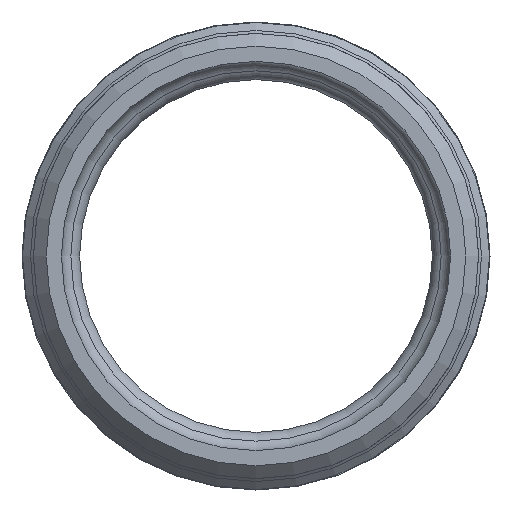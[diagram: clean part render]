
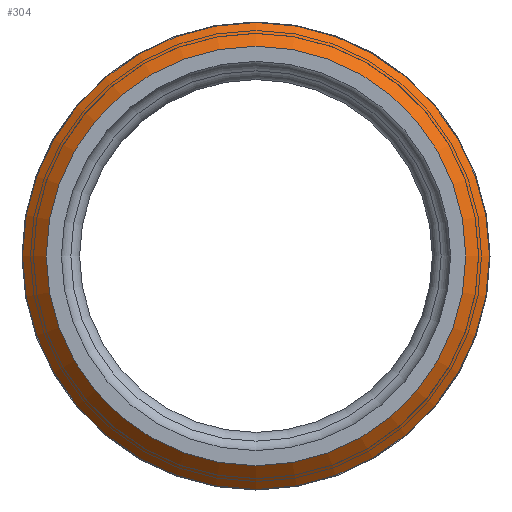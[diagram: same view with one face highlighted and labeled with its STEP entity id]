
A CAD part, front view. The second image highlights one B-rep face of the part: STEP entity #304.
In plain terms, the highlighted conical face has half-angle 45 degrees and reference radius 32.499 mm.
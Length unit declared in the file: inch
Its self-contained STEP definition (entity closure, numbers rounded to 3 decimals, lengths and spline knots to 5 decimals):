
#241=CARTESIAN_POINT('',(0.0,-7.005,-1.1495));
#242=VERTEX_POINT('',#241);
#243=CARTESIAN_POINT('',(0.,-7.005,1.1495));
#244=VERTEX_POINT('',#243);
#245=CARTESIAN_POINT('',(0.0,-7.005,0.0));
#246=DIRECTION('',(0.0,1.0,0.0));
#247=DIRECTION('',(0.0,0.0,-1.0));
#248=AXIS2_PLACEMENT_3D('',#245,#246,#247);
#249=CIRCLE('',#248,1.1495);
#250=EDGE_CURVE('',#242,#244,#249,.T.);
#252=CARTESIAN_POINT('',(0.0,-7.005,0.0));
#253=DIRECTION('',(0.0,1.0,0.0));
#254=DIRECTION('',(0.0,0.0,-1.0));
#255=AXIS2_PLACEMENT_3D('',#252,#253,#254);
#256=CIRCLE('',#255,1.1495);
#257=EDGE_CURVE('',#244,#242,#256,.T.);
#267=CARTESIAN_POINT('',(0.0,-6.875,-1.2795));
#268=VERTEX_POINT('',#267);
#269=CARTESIAN_POINT('',(0.,-6.875,1.2795));
#270=VERTEX_POINT('',#269);
#271=CARTESIAN_POINT('',(0.0,-6.875,0.0));
#272=DIRECTION('',(0.0,-1.0,0.0));
#273=DIRECTION('',(0.0,0.0,-1.0));
#274=AXIS2_PLACEMENT_3D('',#271,#272,#273);
#275=CIRCLE('',#274,1.2795);
#276=EDGE_CURVE('',#268,#270,#275,.T.);
#278=CARTESIAN_POINT('',(0.0,-6.875,0.0));
#279=DIRECTION('',(0.0,-1.0,0.0));
#280=DIRECTION('',(0.0,0.0,-1.0));
#281=AXIS2_PLACEMENT_3D('',#278,#279,#280);
#282=CIRCLE('',#281,1.2795);
#283=EDGE_CURVE('',#270,#268,#282,.T.);
#291=CARTESIAN_POINT('',(0.0,-6.875,0.0));
#292=DIRECTION('',(0.,1.0,0.));
#293=DIRECTION('',(0.0,0.0,-1.0));
#294=AXIS2_PLACEMENT_3D('',#291,#292,#293);
#295=CONICAL_SURFACE('',#294,1.2795,45.);
#296=ORIENTED_EDGE('',*,*,#276,.T.);
#297=ORIENTED_EDGE('',*,*,#283,.T.);
#298=EDGE_LOOP('',(#296,#297));
#299=FACE_OUTER_BOUND('',#298,.T.);
#300=ORIENTED_EDGE('',*,*,#250,.T.);
#301=ORIENTED_EDGE('',*,*,#257,.T.);
#302=EDGE_LOOP('',(#300,#301));
#303=FACE_BOUND('',#302,.T.);
#304=ADVANCED_FACE('',(#299,#303),#295,.T.);
